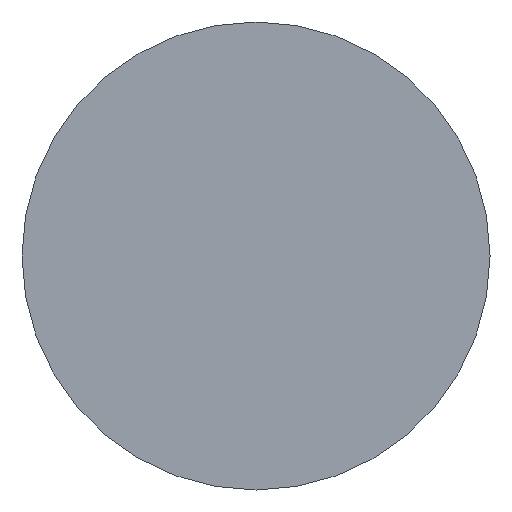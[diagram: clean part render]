
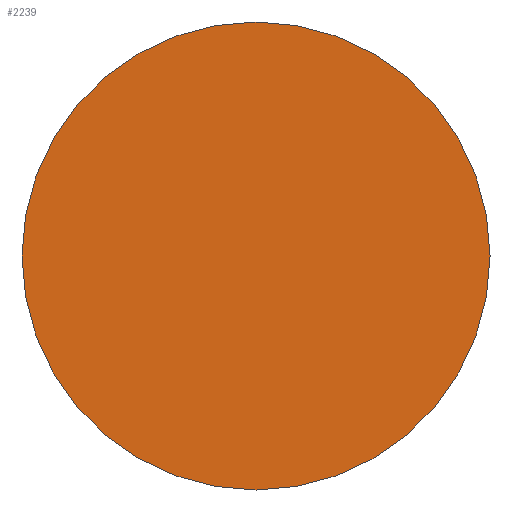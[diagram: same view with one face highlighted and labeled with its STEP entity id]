
A CAD part, front view. The second image highlights one B-rep face of the part: STEP entity #2239.
In plain terms, the highlighted planar face has unit normal (0, -1, 0).
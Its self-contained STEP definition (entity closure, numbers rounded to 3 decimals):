
#125 = CARTESIAN_POINT ( 'NONE',  ( 0., 0., -25. ) ) ;
#472 = ORIENTED_EDGE ( 'NONE', *, *, #8042, .F. ) ;
#635 = ORIENTED_EDGE ( 'NONE', *, *, #5106, .F. ) ;
#1037 = CIRCLE ( 'NONE', #4286, 25. ) ;
#2239 = ADVANCED_FACE ( 'NONE', ( #7249 ), #5605, .T. ) ;
#2533 = DIRECTION ( 'NONE',  ( 0., -1., 0. ) ) ;
#3232 = EDGE_LOOP ( 'NONE', ( #635, #472 ) ) ;
#3515 = CIRCLE ( 'NONE', #7718, 25. ) ;
#3624 = DIRECTION ( 'NONE',  ( 0., 0., -1. ) ) ;
#4050 = DIRECTION ( 'NONE',  ( 0., 0., 1. ) ) ;
#4286 = AXIS2_PLACEMENT_3D ( 'NONE', #5966, #4943, #4050 ) ;
#4943 = DIRECTION ( 'NONE',  ( 0., 1., 0. ) ) ;
#5106 = EDGE_CURVE ( 'NONE', #12116, #9361, #1037, .T. ) ;
#5439 = CARTESIAN_POINT ( 'NONE',  ( 0., 0., 0. ) ) ;
#5605 = PLANE ( 'NONE',  #10473 ) ;
#5966 = CARTESIAN_POINT ( 'NONE',  ( 0., 0., 0. ) ) ;
#7249 = FACE_OUTER_BOUND ( 'NONE', #3232, .T. ) ;
#7718 = AXIS2_PLACEMENT_3D ( 'NONE', #8674, #10621, #8721 ) ;
#8042 = EDGE_CURVE ( 'NONE', #9361, #12116, #3515, .T. ) ;
#8674 = CARTESIAN_POINT ( 'NONE',  ( 0., 0., 0. ) ) ;
#8721 = DIRECTION ( 'NONE',  ( 0., 0., 1. ) ) ;
#9318 = CARTESIAN_POINT ( 'NONE',  ( 0., 0., 25. ) ) ;
#9361 = VERTEX_POINT ( 'NONE', #125 ) ;
#10473 = AXIS2_PLACEMENT_3D ( 'NONE', #5439, #2533, #3624 ) ;
#10621 = DIRECTION ( 'NONE',  ( 0., 1., 0. ) ) ;
#12116 = VERTEX_POINT ( 'NONE', #9318 ) ;
